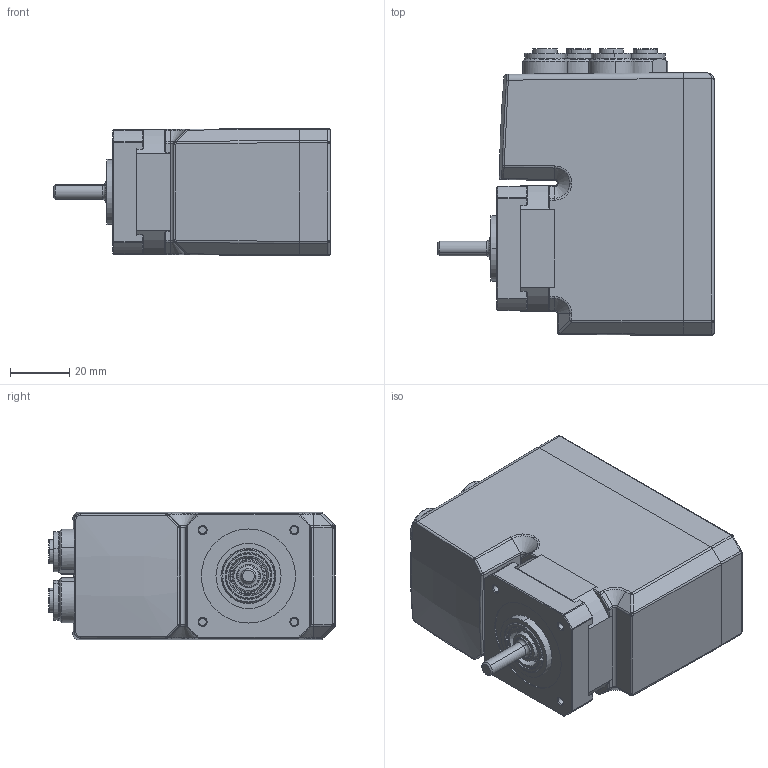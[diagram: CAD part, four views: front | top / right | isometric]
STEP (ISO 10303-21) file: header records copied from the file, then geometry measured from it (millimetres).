
FILE_DESCRIPTION((''),'2;1');
FILE_NAME('STEPPERASSY_ASM','2023-07-16T19:12:38',('KaviarasanNagaraj'),(''),'CREO PARAMETRIC BY PTC INC, 2021063','CREO PARAMETRIC BY PTC INC, 2021063','');
FILE_SCHEMA(('AUTOMOTIVE_DESIGN { 1 0 10303 214 1 1 1 1 }'));
Length unit declared in the file: millimetre
Products named in the file (7): CONNECTOR_RADIAL; BODY; FRONT; SHAFT_5; SEALING; MIS17_ASM; STEPPERASSY_ASM
Assembly tree (6 placements, depth 3):
  STEPPERASSY_ASM
    MIS17_ASM
      CONNECTOR_RADIAL
      BODY
      FRONT
      SHAFT_5
      SEALING
Bounding box: 93.5 x 96.94 x 43.06 mm (x, y, z)
Volume: 265441.7 mm3; surface area: 39000.2 mm2
Topology: 5 solids, 5 shells, 522 faces, 1193 edges, 700 vertices
Faces by surface type: plane 178, cylinder 175, cone 82, bspline 43, torus 40, sphere 4
Entity records: 24544 total; most frequent: CARTESIAN_POINT 5451, DIRECTION 2692, ORIENTED_EDGE 2362, EDGE_CURVE 1181, AXIS2_PLACEMENT_3D 1059, FILL_AREA_STYLE_COLOUR 766, FILL_AREA_STYLE 766, SURFACE_STYLE_FILL_AREA 766
